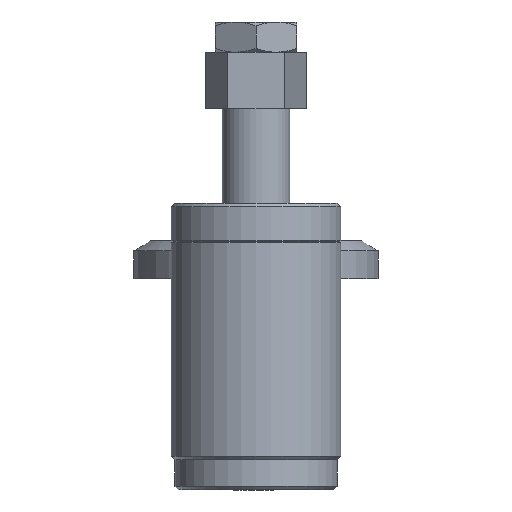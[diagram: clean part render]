
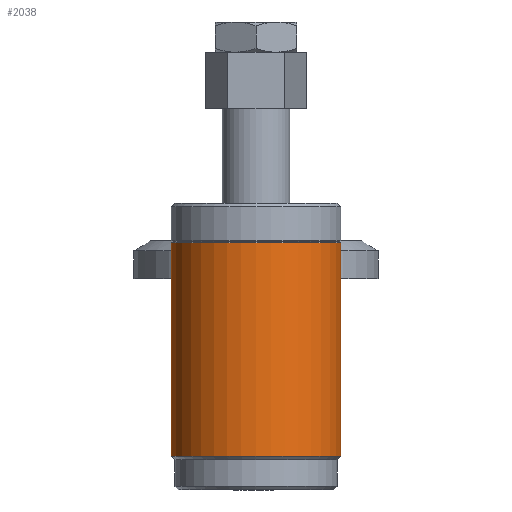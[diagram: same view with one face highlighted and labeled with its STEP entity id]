
A CAD part, left-side view. The second image highlights one B-rep face of the part: STEP entity #2038.
In plain terms, the highlighted cylindrical face has radius 22.5 mm (diameter 45 mm), a full revolution.
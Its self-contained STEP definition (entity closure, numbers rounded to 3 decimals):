
#243=CYLINDRICAL_SURFACE('',#2225,22.5);
#568=ORIENTED_EDGE('',*,*,#735,.F.);
#569=ORIENTED_EDGE('',*,*,#734,.T.);
#734=EDGE_CURVE('',#856,#856,#926,.T.);
#735=EDGE_CURVE('',#857,#857,#927,.T.);
#856=VERTEX_POINT('',#3122);
#857=VERTEX_POINT('',#3125);
#926=CIRCLE('',#2224,22.5);
#927=CIRCLE('',#2226,22.5);
#1072=EDGE_LOOP('',(#568));
#1073=EDGE_LOOP('',(#569));
#1220=FACE_BOUND('',#1072,.T.);
#1221=FACE_BOUND('',#1073,.T.);
#2038=ADVANCED_FACE('',(#1220,#1221),#243,.T.);
#2224=AXIS2_PLACEMENT_3D('',#3121,#2619,#2620);
#2225=AXIS2_PLACEMENT_3D('',#3123,#2621,#2622);
#2226=AXIS2_PLACEMENT_3D('',#3124,#2623,#2624);
#2619=DIRECTION('',(0.,0.,1.));
#2620=DIRECTION('',(1.,0.,0.));
#2621=DIRECTION('',(0.,0.,1.));
#2622=DIRECTION('',(1.,0.,0.));
#2623=DIRECTION('',(0.,0.,1.));
#2624=DIRECTION('',(1.,0.,0.));
#3121=CARTESIAN_POINT('',(0.,0.,9.));
#3122=CARTESIAN_POINT('',(22.5,0.,9.));
#3123=CARTESIAN_POINT('',(0.,0.,138.8));
#3124=CARTESIAN_POINT('',(0.,0.,65.5));
#3125=CARTESIAN_POINT('',(22.5,0.,65.5));
